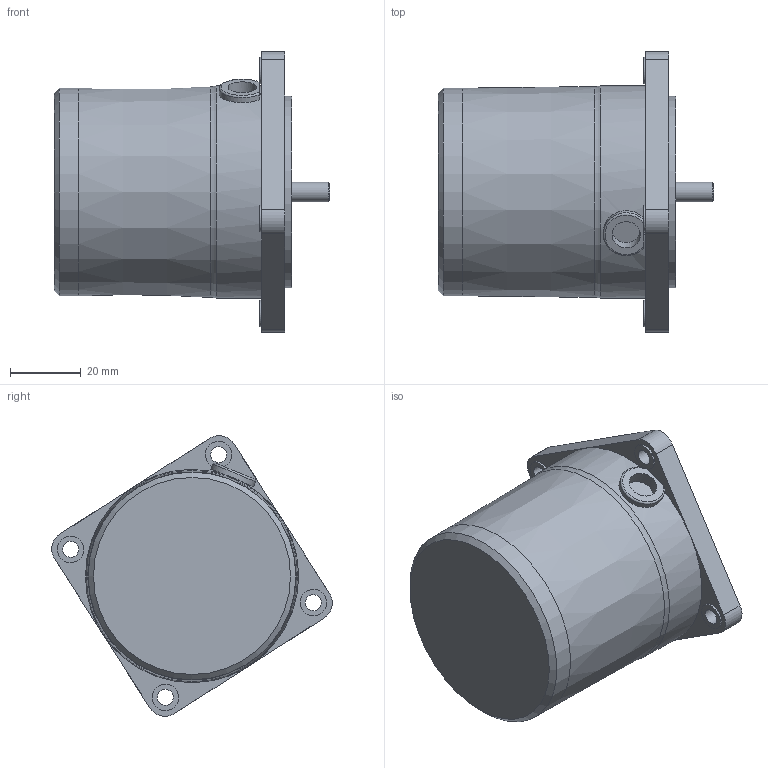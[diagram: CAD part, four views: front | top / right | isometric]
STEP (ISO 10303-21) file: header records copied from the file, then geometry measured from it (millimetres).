
FILE_DESCRIPTION((''),'2;1');
FILE_NAME('D:\STP파일\3W MOTOR\S6I03G.stp','2013-05-20T15:42:43',('leebh'),(''),'Autodesk Inventor 2011','Autodesk Inventor 2011','');
FILE_SCHEMA(('AUTOMOTIVE_DESIGN { 1 0 10303 214 1 1 1 1 }'));
Length unit declared in the file: millimetre
Products named in the file (1): 부품1
Bounding box: 77.7 x 79.05 x 79.05 mm (x, y, z)
Volume: 182309.8 mm3; surface area: 21528.1 mm2
Topology: 1 solids, 2 shells, 71 faces, 178 edges, 116 vertices
Faces by surface type: plane 37, cylinder 29, cone 3, torus 2
Full cylindrical faces by diameter (mm): 4.5 x4, 5.57 x1, 7.5 x4, 8 x1, 10.1 x1, 25 x1, 54 x1, 58.5 x1, 60 x1
Entity records: 2119 total; most frequent: CARTESIAN_POINT 399, DIRECTION 364, ORIENTED_EDGE 314, EDGE_CURVE 157, AXIS2_PLACEMENT_3D 142, VERTEX_POINT 114, EDGE_LOOP 109, VECTOR 80
